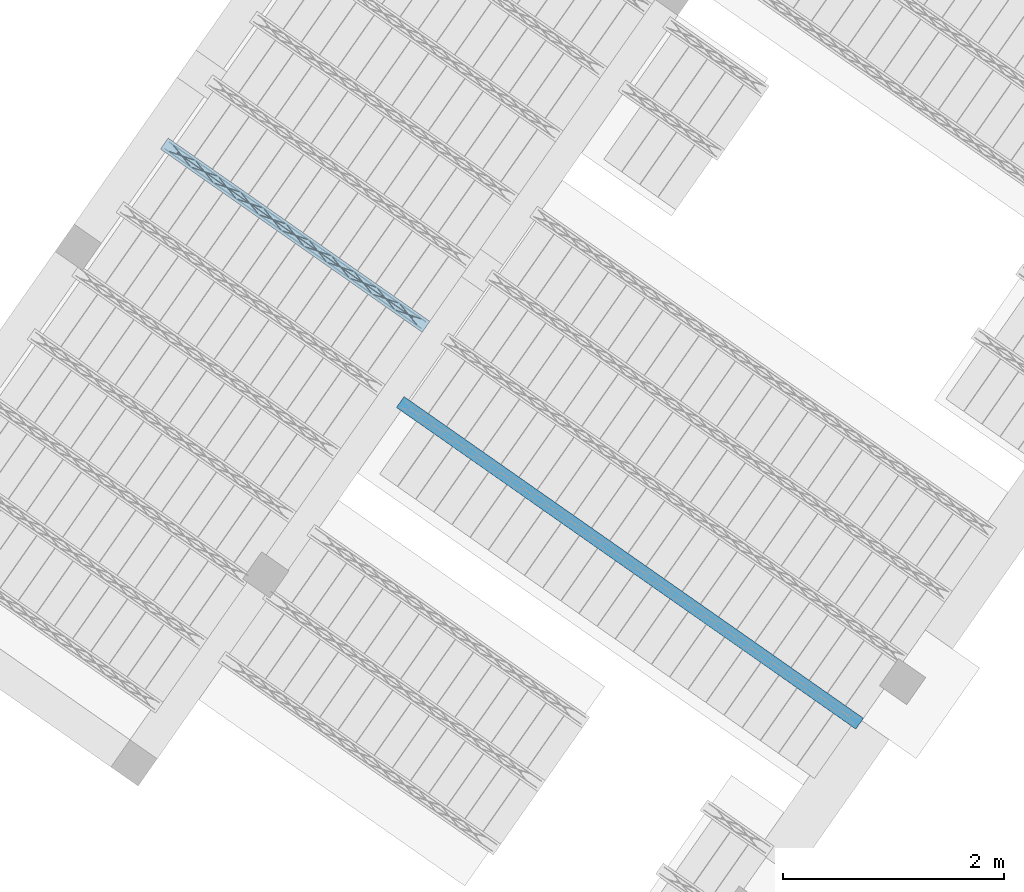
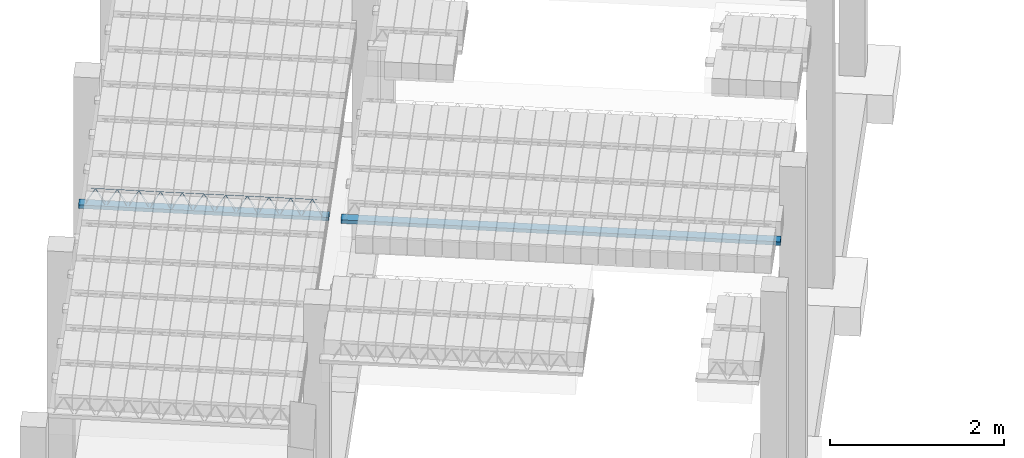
# One storey, part 21 of 80: 2 beams.
"""IFC2X3 building model written with IfcOpenShell, lengths in metres."""

from ifc_helpers import new_model, entity, si_unit, converted_unit, derived_unit, direction, frame, frame_2d, origin, origin_2d_with_axis, place, context, subcontext, project, spatial, rectangle, circle, extrude, material, type_object, element, save


model = new_model("IFC2X3")

# Units and contexts
model_context = context("Model", 3, precision=1e-05, world=origin(), true_north=direction((6.123031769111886e-17, 1.0)))
body_context = subcontext(model_context, "Body", "Model", "MODEL_VIEW")
ifc_project = project(units=[si_unit("LENGTHUNIT", "METRE"), si_unit("AREAUNIT", "SQUARE_METRE"), si_unit("VOLUMEUNIT", "CUBIC_METRE"), converted_unit("PLANEANGLEUNIT", "DEGREE", entity("IfcPlaneAngleMeasure", 0.017453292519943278), si_unit("PLANEANGLEUNIT", "RADIAN"), dimensions=[0, 0, 0, 0, 0, 0, 0]), si_unit("MASSUNIT", "GRAM", prefix="KILO"), derived_unit("MASSDENSITYUNIT", [(si_unit("MASSUNIT", "GRAM", prefix="KILO"), 1), (si_unit("LENGTHUNIT", "METRE"), -3)]), derived_unit("IONCONCENTRATIONUNIT", [(si_unit("MASSUNIT", "GRAM", prefix="KILO"), 1), (si_unit("LENGTHUNIT", "METRE"), -3)]), derived_unit("MOMENTOFINERTIAUNIT", [(si_unit("LENGTHUNIT", "METRE"), 4)]), si_unit("TIMEUNIT", "SECOND"), si_unit("FREQUENCYUNIT", "HERTZ"), si_unit("THERMODYNAMICTEMPERATUREUNIT", "DEGREE_CELSIUS"), derived_unit("THERMALTRANSMITTANCEUNIT", [(si_unit("MASSUNIT", "GRAM", prefix="KILO"), 1), (si_unit("THERMODYNAMICTEMPERATUREUNIT", "KELVIN"), -1), (si_unit("TIMEUNIT", "SECOND"), -3)]), derived_unit("THERMALCONDUCTANCEUNIT", [(si_unit("MASSUNIT", "GRAM", prefix="KILO"), 1), (si_unit("THERMODYNAMICTEMPERATUREUNIT", "KELVIN"), -1), (si_unit("TIMEUNIT", "SECOND"), -3), (si_unit("LENGTHUNIT", "METRE"), 1)]), derived_unit("VOLUMETRICFLOWRATEUNIT", [(si_unit("LENGTHUNIT", "METRE", prefix="DECI"), 3), (si_unit("TIMEUNIT", "SECOND"), -1)]), derived_unit("MASSFLOWRATEUNIT", [(si_unit("MASSUNIT", "GRAM", prefix="KILO"), 1), (si_unit("TIMEUNIT", "SECOND"), -1)]), derived_unit("ROTATIONALFREQUENCYUNIT", [(si_unit("TIMEUNIT", "SECOND"), -1)]), si_unit("ELECTRICCURRENTUNIT", "AMPERE"), si_unit("ELECTRICVOLTAGEUNIT", "VOLT"), si_unit("POWERUNIT", "WATT"), si_unit("FORCEUNIT", "NEWTON", prefix="KILO"), si_unit("ILLUMINANCEUNIT", "LUX"), si_unit("LUMINOUSFLUXUNIT", "LUMEN"), si_unit("LUMINOUSINTENSITYUNIT", "CANDELA"), si_unit("ENERGYUNIT", "JOULE"), derived_unit("USERDEFINED", [(si_unit("MASSUNIT", "GRAM", prefix="KILO"), -1), (si_unit("LENGTHUNIT", "METRE"), -2), (si_unit("TIMEUNIT", "SECOND"), 3), (si_unit("LUMINOUSFLUXUNIT", "LUMEN"), 1)]), derived_unit("USERDEFINED", [(si_unit("MASSUNIT", "GRAM", prefix="KILO"), 1), (si_unit("TIMEUNIT", "SECOND"), -3), (si_unit("LENGTHUNIT", "METRE"), 3), (si_unit("ELECTRICCURRENTUNIT", "AMPERE"), -2)]), derived_unit("SOUNDPOWERUNIT", [(si_unit("MASSUNIT", "GRAM", prefix="KILO"), 1), (si_unit("TIMEUNIT", "SECOND"), -3), (si_unit("LENGTHUNIT", "METRE"), 2)]), derived_unit("SOUNDPRESSUREUNIT", [(si_unit("MASSUNIT", "GRAM", prefix="KILO"), 1), (si_unit("LENGTHUNIT", "METRE"), -1), (si_unit("TIMEUNIT", "SECOND"), -2)]), derived_unit("LINEARVELOCITYUNIT", [(si_unit("LENGTHUNIT", "METRE"), 1), (si_unit("TIMEUNIT", "SECOND"), -1)]), si_unit("PRESSUREUNIT", "PASCAL"), derived_unit("USERDEFINED", [(si_unit("MASSUNIT", "GRAM", prefix="KILO"), 1), (si_unit("LENGTHUNIT", "METRE"), -2), (si_unit("TIMEUNIT", "SECOND"), -2)]), derived_unit("LINEARFORCEUNIT", [(si_unit("MASSUNIT", "GRAM", prefix="KILO"), 1), (si_unit("TIMEUNIT", "SECOND"), -2)]), derived_unit("PLANARFORCEUNIT", [(si_unit("MASSUNIT", "GRAM", prefix="KILO"), 1), (si_unit("LENGTHUNIT", "METRE"), -1), (si_unit("TIMEUNIT", "SECOND"), -2)]), derived_unit("SPECIFICHEATCAPACITYUNIT", [(si_unit("THERMODYNAMICTEMPERATUREUNIT", "KELVIN"), -1), (si_unit("LENGTHUNIT", "METRE"), 2), (si_unit("TIMEUNIT", "SECOND"), -2)]), derived_unit("HEATFLUXDENSITYUNIT", [(si_unit("MASSUNIT", "GRAM", prefix="KILO"), 1), (si_unit("TIMEUNIT", "SECOND"), -3)]), derived_unit("HEATINGVALUEUNIT", [(si_unit("LENGTHUNIT", "METRE"), 2), (si_unit("TIMEUNIT", "SECOND"), -2)]), derived_unit("VAPORPERMEABILITYUNIT", [(si_unit("LENGTHUNIT", "METRE"), -1), (si_unit("TIMEUNIT", "SECOND"), 1)]), derived_unit("DYNAMICVISCOSITYUNIT", [(si_unit("MASSUNIT", "GRAM", prefix="KILO"), 1), (si_unit("TIMEUNIT", "SECOND"), -1), (si_unit("LENGTHUNIT", "METRE"), -1)]), derived_unit("THERMALEXPANSIONCOEFFICIENTUNIT", [(si_unit("THERMODYNAMICTEMPERATUREUNIT", "KELVIN"), -1)]), derived_unit("MODULUSOFELASTICITYUNIT", [(si_unit("MASSUNIT", "GRAM", prefix="KILO"), 1), (si_unit("LENGTHUNIT", "METRE"), -1), (si_unit("TIMEUNIT", "SECOND"), -2)]), derived_unit("ISOTHERMALMOISTURECAPACITYUNIT", [(si_unit("MASSUNIT", "GRAM", prefix="KILO"), -1), (si_unit("LENGTHUNIT", "METRE"), 3)]), derived_unit("MOISTUREDIFFUSIVITYUNIT", [(si_unit("TIMEUNIT", "SECOND"), -1), (si_unit("LENGTHUNIT", "METRE"), 2)]), derived_unit("MASSPERLENGTHUNIT", [(si_unit("MASSUNIT", "GRAM", prefix="KILO"), 1), (si_unit("LENGTHUNIT", "METRE"), -1)]), derived_unit("THERMALRESISTANCEUNIT", [(si_unit("MASSUNIT", "GRAM", prefix="KILO"), -1), (si_unit("TIMEUNIT", "SECOND"), 3), (si_unit("THERMODYNAMICTEMPERATUREUNIT", "KELVIN"), 1)]), derived_unit("ACCELERATIONUNIT", [(si_unit("LENGTHUNIT", "METRE"), 1), (si_unit("TIMEUNIT", "SECOND"), -2)]), derived_unit("ANGULARVELOCITYUNIT", [(si_unit("TIMEUNIT", "SECOND"), -1), (si_unit("PLANEANGLEUNIT", "RADIAN"), 1)]), derived_unit("LINEARSTIFFNESSUNIT", [(si_unit("MASSUNIT", "GRAM", prefix="KILO"), 1), (si_unit("TIMEUNIT", "SECOND"), -2)]), derived_unit("WARPINGCONSTANTUNIT", [(si_unit("LENGTHUNIT", "METRE"), 6)]), derived_unit("LINEARMOMENTUNIT", [(si_unit("MASSUNIT", "GRAM", prefix="KILO"), 1), (si_unit("LENGTHUNIT", "METRE"), 1), (si_unit("TIMEUNIT", "SECOND"), -2)]), derived_unit("TORQUEUNIT", [(si_unit("MASSUNIT", "GRAM", prefix="KILO"), 1), (si_unit("LENGTHUNIT", "METRE"), 2), (si_unit("TIMEUNIT", "SECOND"), -2)])], contexts=[model_context])

# Site, building, storey
site_placement = place(None, origin())
site = spatial("IfcSite", under=ifc_project, at=site_placement, Name="Default", CompositionType="ELEMENT")
building_placement = place(site_placement, origin())
building = spatial("IfcBuilding", under=site, at=building_placement, CompositionType="ELEMENT")
storey_placement = place(building_placement, frame((0.0, 0.0, 95.94)))
storey = spatial("IfcBuildingStorey", under=building, at=storey_placement, Name="PB", CompositionType="ELEMENT", Elevation=95.94)

# Beams
beam_type = type_object("IfcBeamType", Name="Vigueta 7 (Paño 2) (Mf = 11.18)", PredefinedType="JOIST")
beam_1_placement = place(storey_placement, origin())
element("IfcBeam", 1, at=beam_1_placement, inside=storey, type_object=beam_type, Name="Vigueta 7 (Paño 2) (Mf = 11.18)", ObjectType="Mf = 11.18", context=body_context, shape_type="SweptSolid", body=[
    extrude(rectangle(XDim=2.8845677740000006, YDim=0.12000000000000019, at=frame_2d((-2.220446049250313e-16, 8.81239525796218e-16), x_axis=(1.0, 0.0))), frame((2.4103812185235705, 5.332031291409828, 2.82), z_axis=(0.0, 0.0, 1.0), x_axis=(0.8191520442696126, -0.5735764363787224, 0.0)), (0.0, 0.0, 1.0), 0.04999999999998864),
    extrude(circle(Radius=0.0025, at=origin_2d_with_axis()), frame((3.551522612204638, 4.489047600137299, 2.8449999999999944), z_axis=(-0.8191520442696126, 0.5735764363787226, 0.0), x_axis=(-0.5735764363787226, -0.8191520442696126, 0.0)), (0.0, 0.0, 1.0), 2.836567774),
    extrude(circle(Radius=0.0025, at=origin_2d_with_axis()), frame((1.3454835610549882, 6.077680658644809, 3.069999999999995), z_axis=(0.8191520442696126, -0.5735764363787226, 0.0), x_axis=(-0.5735764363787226, -0.8191520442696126, 0.0)), (0.0, 0.0, 1.0), 2.5999999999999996),
    extrude(circle(Radius=0.0025, at=origin_2d_with_axis()), frame((3.5160665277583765, 4.513874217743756, 2.8449999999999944), z_axis=(-0.3145304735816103, 0.389334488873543, 0.8657304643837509), x_axis=(-0.7778747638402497, -0.6284193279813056, 0.0)), (0.0, 0.0, 1.0), 0.2598961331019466),
    extrude(circle(Radius=0.0025, at=origin_2d_with_axis()), frame((3.311278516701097, 4.6572683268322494, 2.8449999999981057), z_axis=(0.47343050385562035, -0.1624017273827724, 0.8657304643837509), x_axis=(-0.3244721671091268, -0.9458952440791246, 0.0)), (0.0, 0.0, 1.0), 0.25989613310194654),
    extrude(circle(Radius=0.0025, at=origin_2d_with_axis()), frame((3.311278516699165, 4.657268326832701, 2.8449999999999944), z_axis=(-0.3145304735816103, 0.389334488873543, 0.8657304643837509), x_axis=(-0.7778747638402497, -0.6284193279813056, 0.0)), (0.0, 0.0, 1.0), 0.2598961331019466),
    extrude(circle(Radius=0.0025, at=origin_2d_with_axis()), frame((3.1064905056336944, 4.80066243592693, 2.8449999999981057), z_axis=(0.47343050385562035, -0.1624017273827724, 0.8657304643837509), x_axis=(-0.3244721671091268, -0.9458952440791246, 0.0)), (0.0, 0.0, 1.0), 0.25989613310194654),
    extrude(circle(Radius=0.0025, at=origin_2d_with_axis()), frame((3.106490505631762, 4.800662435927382, 2.8449999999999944), z_axis=(-0.3145304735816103, 0.389334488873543, 0.8657304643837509), x_axis=(-0.7778747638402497, -0.6284193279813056, 0.0)), (0.0, 0.0, 1.0), 0.2598961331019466),
    extrude(circle(Radius=0.0025, at=origin_2d_with_axis()), frame((2.9017024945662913, 4.944056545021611, 2.8449999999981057), z_axis=(0.47343050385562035, -0.1624017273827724, 0.8657304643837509), x_axis=(-0.3244721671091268, -0.9458952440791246, 0.0)), (0.0, 0.0, 1.0), 0.25989613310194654),
    extrude(circle(Radius=0.0025, at=origin_2d_with_axis()), frame((2.9017024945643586, 4.944056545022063, 2.8449999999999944), z_axis=(-0.3145304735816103, 0.389334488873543, 0.8657304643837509), x_axis=(-0.7778747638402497, -0.6284193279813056, 0.0)), (0.0, 0.0, 1.0), 0.2598961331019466),
    extrude(circle(Radius=0.0025, at=origin_2d_with_axis()), frame((2.696914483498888, 5.087450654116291, 2.8449999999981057), z_axis=(0.47343050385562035, -0.1624017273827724, 0.8657304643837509), x_axis=(-0.3244721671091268, -0.9458952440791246, 0.0)), (0.0, 0.0, 1.0), 0.25989613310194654),
    extrude(circle(Radius=0.0025, at=origin_2d_with_axis()), frame((2.69691448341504, 5.0874506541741, 2.8449999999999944), z_axis=(-0.3145304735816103, 0.389334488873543, 0.8657304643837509), x_axis=(-0.7778747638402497, -0.6284193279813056, 0.0)), (0.0, 0.0, 1.0), 0.2598961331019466),
    extrude(circle(Radius=0.0025, at=origin_2d_with_axis()), frame((2.4921264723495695, 5.230844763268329, 2.8449999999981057), z_axis=(0.47343050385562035, -0.1624017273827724, 0.8657304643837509), x_axis=(-0.3244721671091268, -0.9458952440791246, 0.0)), (0.0, 0.0, 1.0), 0.25989613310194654),
    extrude(circle(Radius=0.0025, at=origin_2d_with_axis()), frame((2.492126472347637, 5.230844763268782, 2.8449999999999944), z_axis=(-0.3145304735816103, 0.389334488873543, 0.8657304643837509), x_axis=(-0.7778747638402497, -0.6284193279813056, 0.0)), (0.0, 0.0, 1.0), 0.2598961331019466),
    extrude(circle(Radius=0.0025, at=origin_2d_with_axis()), frame((2.2873384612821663, 5.37423887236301, 2.8449999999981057), z_axis=(0.47343050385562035, -0.1624017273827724, 0.8657304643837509), x_axis=(-0.3244721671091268, -0.9458952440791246, 0.0)), (0.0, 0.0, 1.0), 0.25989613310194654),
    extrude(circle(Radius=0.0025, at=origin_2d_with_axis()), frame((2.2873384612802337, 5.374238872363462, 2.8449999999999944), z_axis=(-0.3145304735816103, 0.389334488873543, 0.8657304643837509), x_axis=(-0.7778747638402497, -0.6284193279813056, 0.0)), (0.0, 0.0, 1.0), 0.2598961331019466),
    extrude(circle(Radius=0.0025, at=origin_2d_with_axis()), frame((2.0825504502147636, 5.517632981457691, 2.8449999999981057), z_axis=(0.47343050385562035, -0.1624017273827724, 0.8657304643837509), x_axis=(-0.3244721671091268, -0.9458952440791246, 0.0)), (0.0, 0.0, 1.0), 0.25989613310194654),
    extrude(circle(Radius=0.0025, at=origin_2d_with_axis()), frame((2.082550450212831, 5.517632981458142, 2.8449999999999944), z_axis=(-0.3145304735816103, 0.389334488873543, 0.8657304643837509), x_axis=(-0.7778747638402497, -0.6284193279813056, 0.0)), (0.0, 0.0, 1.0), 0.2598961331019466),
    extrude(circle(Radius=0.0025, at=origin_2d_with_axis()), frame((1.8777624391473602, 5.661027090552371, 2.8449999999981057), z_axis=(0.47343050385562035, -0.1624017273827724, 0.8657304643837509), x_axis=(-0.3244721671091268, -0.9458952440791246, 0.0)), (0.0, 0.0, 1.0), 0.25989613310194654),
    extrude(circle(Radius=0.0025, at=origin_2d_with_axis()), frame((1.8777624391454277, 5.661027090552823, 2.8449999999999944), z_axis=(-0.3145304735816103, 0.389334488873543, 0.8657304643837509), x_axis=(-0.7778747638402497, -0.6284193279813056, 0.0)), (0.0, 0.0, 1.0), 0.2598961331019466),
    extrude(circle(Radius=0.0025, at=origin_2d_with_axis()), frame((1.6729744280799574, 5.804421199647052, 2.8449999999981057), z_axis=(0.47343050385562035, -0.1624017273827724, 0.8657304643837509), x_axis=(-0.3244721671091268, -0.9458952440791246, 0.0)), (0.0, 0.0, 1.0), 0.25989613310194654),
    extrude(circle(Radius=0.0025, at=origin_2d_with_axis()), frame((1.6729744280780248, 5.804421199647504, 2.8449999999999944), z_axis=(-0.3145304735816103, 0.389334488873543, 0.8657304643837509), x_axis=(-0.7778747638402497, -0.6284193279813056, 0.0)), (0.0, 0.0, 1.0), 0.2598961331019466),
    extrude(circle(Radius=0.0025, at=origin_2d_with_axis()), frame((1.4681864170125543, 5.947815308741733, 2.8449999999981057), z_axis=(0.47343050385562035, -0.1624017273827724, 0.8657304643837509), x_axis=(-0.3244721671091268, -0.9458952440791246, 0.0)), (0.0, 0.0, 1.0), 0.25989613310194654),
    extrude(circle(Radius=0.0025, at=origin_2d_with_axis()), frame((1.4681864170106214, 5.947815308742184, 2.8449999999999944), z_axis=(-0.3145304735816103, 0.389334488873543, 0.8657304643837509), x_axis=(-0.7778747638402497, -0.6284193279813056, 0.0)), (0.0, 0.0, 1.0), 0.2598961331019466),
    extrude(circle(Radius=0.0025, at=origin_2d_with_axis()), frame((1.2633984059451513, 6.091209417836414, 2.8449999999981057), z_axis=(0.47343050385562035, -0.1624017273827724, 0.8657304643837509), x_axis=(-0.3244721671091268, -0.9458952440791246, 0.0)), (0.0, 0.0, 1.0), 0.25989613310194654),
    extrude(circle(Radius=0.0025, at=origin_2d_with_axis()), frame((3.592820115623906, 4.548026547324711, 2.8449999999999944), z_axis=(-0.8191520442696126, 0.5735764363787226, 0.0), x_axis=(-0.5735764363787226, -0.8191520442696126, 0.0)), (0.0, 0.0, 1.0), 2.836567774),
    extrude(circle(Radius=0.0025, at=origin_2d_with_axis()), frame((3.5573640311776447, 4.572853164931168, 2.8449999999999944), z_axis=(-0.47343050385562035, 0.1624017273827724, 0.8657304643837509), x_axis=(-0.3244721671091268, -0.9458952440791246, 0.0)), (0.0, 0.0, 1.0), 0.25989613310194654),
    extrude(circle(Radius=0.0025, at=origin_2d_with_axis()), frame((3.352576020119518, 4.716247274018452, 2.8449999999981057), z_axis=(0.3145304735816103, -0.389334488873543, 0.8657304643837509), x_axis=(-0.7778747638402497, -0.6284193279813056, 0.0)), (0.0, 0.0, 1.0), 0.2598961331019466),
    extrude(circle(Radius=0.0025, at=origin_2d_with_axis()), frame((3.352576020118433, 4.716247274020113, 2.8449999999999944), z_axis=(-0.47343050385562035, 0.1624017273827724, 0.8657304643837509), x_axis=(-0.3244721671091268, -0.9458952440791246, 0.0)), (0.0, 0.0, 1.0), 0.25989613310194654),
    extrude(circle(Radius=0.0025, at=origin_2d_with_axis()), frame((3.1477880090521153, 4.859641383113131, 2.8449999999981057), z_axis=(0.3145304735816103, -0.389334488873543, 0.8657304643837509), x_axis=(-0.7778747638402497, -0.6284193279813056, 0.0)), (0.0, 0.0, 1.0), 0.2598961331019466),
    extrude(circle(Radius=0.0025, at=origin_2d_with_axis()), frame((3.14778800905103, 4.859641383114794, 2.8449999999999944), z_axis=(-0.47343050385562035, 0.1624017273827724, 0.8657304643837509), x_axis=(-0.3244721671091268, -0.9458952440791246, 0.0)), (0.0, 0.0, 1.0), 0.25989613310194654),
    extrude(circle(Radius=0.0025, at=origin_2d_with_axis()), frame((2.942999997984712, 5.003035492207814, 2.8449999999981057), z_axis=(0.3145304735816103, -0.389334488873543, 0.8657304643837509), x_axis=(-0.7778747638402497, -0.6284193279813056, 0.0)), (0.0, 0.0, 1.0), 0.2598961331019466),
    extrude(circle(Radius=0.0025, at=origin_2d_with_axis()), frame((2.9429999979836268, 5.003035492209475, 2.8449999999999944), z_axis=(-0.47343050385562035, 0.1624017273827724, 0.8657304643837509), x_axis=(-0.3244721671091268, -0.9458952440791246, 0.0)), (0.0, 0.0, 1.0), 0.25989613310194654),
    extrude(circle(Radius=0.0025, at=origin_2d_with_axis()), frame((2.738211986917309, 5.1464296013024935, 2.8449999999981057), z_axis=(0.3145304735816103, -0.389334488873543, 0.8657304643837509), x_axis=(-0.7778747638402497, -0.6284193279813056, 0.0)), (0.0, 0.0, 1.0), 0.2598961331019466),
    extrude(circle(Radius=0.0025, at=origin_2d_with_axis()), frame((2.738211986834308, 5.146429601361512, 2.8449999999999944), z_axis=(-0.47343050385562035, 0.1624017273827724, 0.8657304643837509), x_axis=(-0.3244721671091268, -0.9458952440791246, 0.0)), (0.0, 0.0, 1.0), 0.25989613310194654),
    extrude(circle(Radius=0.0025, at=origin_2d_with_axis()), frame((2.5334239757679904, 5.289823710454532, 2.8449999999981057), z_axis=(0.3145304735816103, -0.389334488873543, 0.8657304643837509), x_axis=(-0.7778747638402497, -0.6284193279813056, 0.0)), (0.0, 0.0, 1.0), 0.2598961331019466),
    extrude(circle(Radius=0.0025, at=origin_2d_with_axis()), frame((2.5334239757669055, 5.289823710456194, 2.8449999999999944), z_axis=(-0.47343050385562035, 0.1624017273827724, 0.8657304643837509), x_axis=(-0.3244721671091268, -0.9458952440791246, 0.0)), (0.0, 0.0, 1.0), 0.25989613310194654),
    extrude(circle(Radius=0.0025, at=origin_2d_with_axis()), frame((2.328635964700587, 5.4332178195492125, 2.8449999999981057), z_axis=(0.3145304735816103, -0.389334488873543, 0.8657304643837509), x_axis=(-0.7778747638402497, -0.6284193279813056, 0.0)), (0.0, 0.0, 1.0), 0.2598961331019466),
    extrude(circle(Radius=0.0025, at=origin_2d_with_axis()), frame((2.328635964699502, 5.433217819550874, 2.8449999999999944), z_axis=(-0.47343050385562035, 0.1624017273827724, 0.8657304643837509), x_axis=(-0.3244721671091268, -0.9458952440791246, 0.0)), (0.0, 0.0, 1.0), 0.25989613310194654),
    extrude(circle(Radius=0.0025, at=origin_2d_with_axis()), frame((2.123847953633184, 5.576611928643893, 2.8449999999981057), z_axis=(0.3145304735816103, -0.389334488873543, 0.8657304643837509), x_axis=(-0.7778747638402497, -0.6284193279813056, 0.0)), (0.0, 0.0, 1.0), 0.2598961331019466),
    extrude(circle(Radius=0.0025, at=origin_2d_with_axis()), frame((2.123847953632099, 5.576611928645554, 2.8449999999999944), z_axis=(-0.47343050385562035, 0.1624017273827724, 0.8657304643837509), x_axis=(-0.3244721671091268, -0.9458952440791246, 0.0)), (0.0, 0.0, 1.0), 0.25989613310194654),
    extrude(circle(Radius=0.0025, at=origin_2d_with_axis()), frame((1.9190599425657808, 5.720006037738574, 2.8449999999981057), z_axis=(0.3145304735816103, -0.389334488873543, 0.8657304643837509), x_axis=(-0.7778747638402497, -0.6284193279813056, 0.0)), (0.0, 0.0, 1.0), 0.2598961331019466),
    extrude(circle(Radius=0.0025, at=origin_2d_with_axis()), frame((1.9190599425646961, 5.7200060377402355, 2.8449999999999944), z_axis=(-0.47343050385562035, 0.1624017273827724, 0.8657304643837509), x_axis=(-0.3244721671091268, -0.9458952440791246, 0.0)), (0.0, 0.0, 1.0), 0.25989613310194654),
    extrude(circle(Radius=0.0025, at=origin_2d_with_axis()), frame((1.7142719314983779, 5.863400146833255, 2.8449999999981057), z_axis=(0.3145304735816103, -0.389334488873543, 0.8657304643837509), x_axis=(-0.7778747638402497, -0.6284193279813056, 0.0)), (0.0, 0.0, 1.0), 0.2598961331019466),
    extrude(circle(Radius=0.0025, at=origin_2d_with_axis()), frame((1.714271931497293, 5.863400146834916, 2.8449999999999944), z_axis=(-0.47343050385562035, 0.1624017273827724, 0.8657304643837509), x_axis=(-0.3244721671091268, -0.9458952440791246, 0.0)), (0.0, 0.0, 1.0), 0.25989613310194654),
    extrude(circle(Radius=0.0025, at=origin_2d_with_axis()), frame((1.5094839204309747, 6.006794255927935, 2.8449999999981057), z_axis=(0.3145304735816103, -0.389334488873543, 0.8657304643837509), x_axis=(-0.7778747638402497, -0.6284193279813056, 0.0)), (0.0, 0.0, 1.0), 0.2598961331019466),
    extrude(circle(Radius=0.0025, at=origin_2d_with_axis()), frame((1.5094839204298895, 6.006794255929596, 2.8449999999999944), z_axis=(-0.47343050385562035, 0.1624017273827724, 0.8657304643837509), x_axis=(-0.3244721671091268, -0.9458952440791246, 0.0)), (0.0, 0.0, 1.0), 0.25989613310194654),
    extrude(circle(Radius=0.0025, at=origin_2d_with_axis()), frame((1.304695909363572, 6.150188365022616, 2.8449999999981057), z_axis=(0.3145304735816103, -0.389334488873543, 0.8657304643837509), x_axis=(-0.7778747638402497, -0.6284193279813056, 0.0)), (0.0, 0.0, 1.0), 0.2598961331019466),
])
ifc_material = material(Name="Hormigón armado")
beam_2_placement = place(storey_placement, origin())
element("IfcBeam", 2, at=beam_2_placement, inside=storey, material=ifc_material, Name="238434", context=body_context, shape_type="SweptSolid", body=[
    extrude(rectangle(XDim=0.04999999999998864, YDim=0.11999999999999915, at=origin_2d_with_axis()), frame((3.3598936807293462, 3.8248410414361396, 3.3049999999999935), z_axis=(0.8191520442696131, -0.5735764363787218, 0.0), x_axis=(0.0, 0.0, -1.0)), (0.0, 0.0, 1.0), 5.065554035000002),
])

save(model, "model.ifc")
